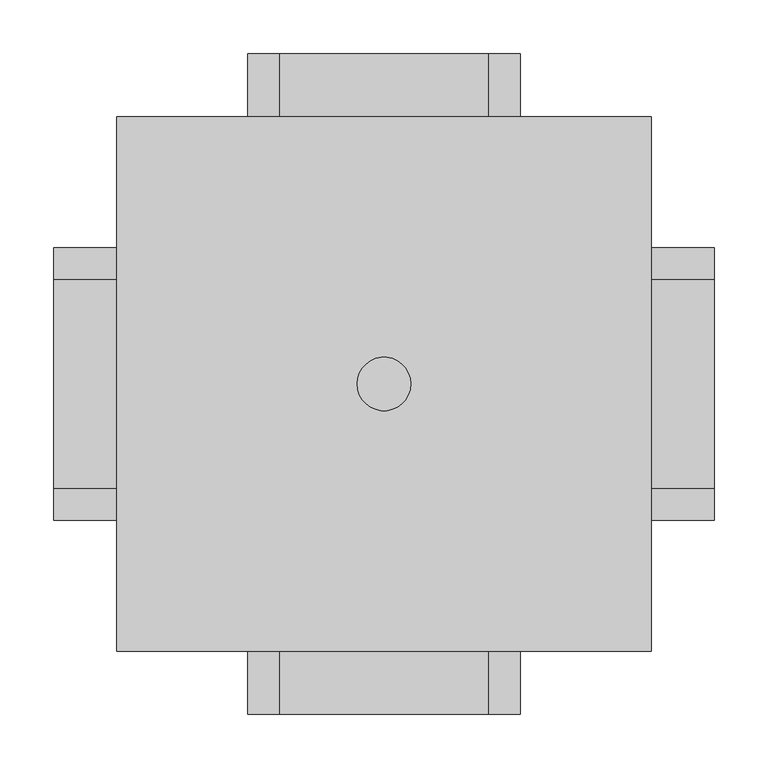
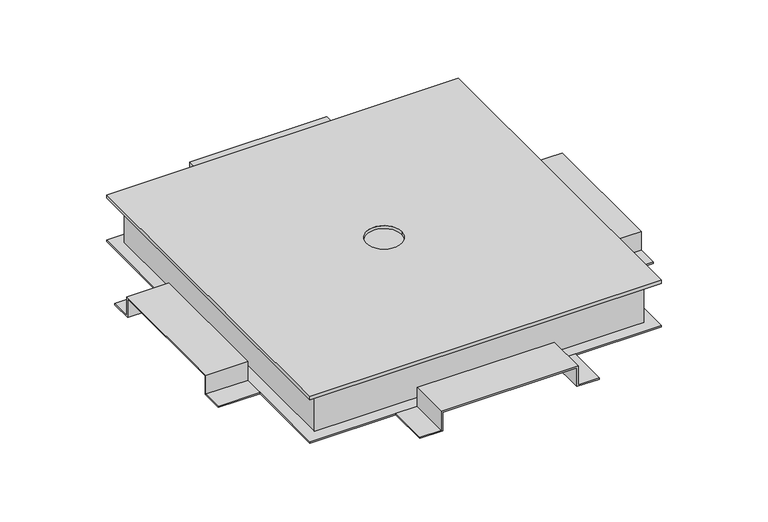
"""IFC4 building model written with IfcOpenShell, lengths in millimetres: cable carrier fitting geometry, Electrical-Installations_Hager_Universal-Junction-Box-With-Retaining-Tabs-Size-2 : Universal junction box with retaining tabs size 2."""

from ifc_helpers import new_model, si_unit, frame, origin, place, context, project, spatial, polyline, circle_curve, outline, extrude, faceted_brep, source, transform, mapped, element, save
from ifc_brep_helpers import plane_surface, revolved_surface, advanced_brep


def cable_carrier_fitting_5f74ec3e(model_context):
    return source(origin(), model_context, "Body", "SolidModel", [
        extrude(outline(polyline([(-14.0, -127.0), (-14.0, -95.0), (14.0, -95.0), (14.0, 95.0), (-14.0, 95.0), (-14.0, 127.0), (-12.0, 127.0), (-12.0, 97.0), (16.0, 97.0), (16.0, -97.0), (-12.0, -97.0), (-12.0, -127.0), (-14.0, -127.0)])), frame((0.0, 249.0, 0.0), z_axis=(0.0, 1.0, 0.0), x_axis=(0.0, 0.0, 1.0)), (0.0, 0.0, 1.0), 59.0),
        extrude(outline(polyline([(-127.0, -14.0), (-127.0, -12.0), (-97.0, -12.0), (-97.0, 16.0), (97.0, 16.0), (97.0, -12.0), (127.0, -12.0), (127.0, -14.0), (95.0, -14.0), (95.0, 14.0), (-95.0, 14.0), (-95.0, -14.0), (-127.0, -14.0)])), frame((-308.0, 0.0, 0.0), z_axis=(1.0, 0.0, 0.0), x_axis=(0.0, 1.0, 0.0)), (0.0, 0.0, 1.0), 59.0),
        extrude(outline(polyline([(-14.0, -127.0), (-14.0, -95.0), (14.0, -95.0), (14.0, 95.0), (-14.0, 95.0), (-14.0, 127.0), (-12.0, 127.0), (-12.0, 97.0), (16.0, 97.0), (16.0, -97.0), (-12.0, -97.0), (-12.0, -127.0), (-14.0, -127.0)])), frame((0.0, -308.0, 0.0), z_axis=(0.0, 1.0, 0.0), x_axis=(0.0, 0.0, 1.0)), (0.0, 0.0, 1.0), 59.0),
        extrude(outline(polyline([(-127.0, -14.0), (-127.0, -12.0), (-97.0, -12.0), (-97.0, 16.0), (97.0, 16.0), (97.0, -12.0), (127.0, -12.0), (127.0, -14.0), (95.0, -14.0), (95.0, 14.0), (-95.0, 14.0), (-95.0, -14.0), (-127.0, -14.0)])), frame((249.0, 0.0, 0.0), z_axis=(1.0, 0.0, 0.0), x_axis=(0.0, 1.0, 0.0)), (0.0, 0.0, 1.0), 59.0),
        advanced_brep(
        [(-249.0, -249.0, 56.0), (249.0, -249.0, 56.0), (249.0, 249.0, 56.0), (-249.0, 249.0, 56.0), (-25.0, 0.0, 56.0), (25.0, 0.0, 56.0), (-249.0, -249.0, 51.0), (-249.0, 249.0, 51.0), (249.0, 249.0, 51.0), (249.0, -249.0, 51.0), (227.0, 227.0, 51.0), (-227.0, 227.0, 51.0), (-227.0, -227.0, 51.0), (227.0, -227.0, 51.0), (-25.0, 0.0, 51.7820613), (25.0, 0.0, 51.7820613), (227.0, 227.0, 51.7820613), (227.0, -227.0, 51.7820613), (-227.0, -227.0, 51.7820613), (-227.0, 227.0, 51.7820613)],
        [
            (0, 1),
            (1, 2),
            (2, 3),
            (3, 0),
            (4, 5, circle_curve(frame((0.0, 0.0, 56.0), z_axis=(0.0, 0.0, -1.0), x_axis=(1.0, 0.0, 0.0)), 25.0)),
            (5, 4, circle_curve(frame((0.0, 0.0, 56.0), z_axis=(0.0, 0.0, -1.0), x_axis=(1.0, 0.0, 0.0)), 25.0)),
            (6, 7),
            (7, 8),
            (8, 9),
            (9, 6),
            (10, 11),
            (11, 12),
            (12, 13),
            (13, 10),
            (0, 6),
            (9, 1),
            (8, 2),
            (7, 3),
            (4, 14),
            (14, 15, circle_curve(frame((0.0, 0.0, 51.7820613), z_axis=(0.0, 0.0, -1.0), x_axis=(1.0, 0.0, 0.0)), 25.0)),
            (15, 5),
            (15, 14, circle_curve(frame((0.0, 0.0, 51.7820613), z_axis=(0.0, 0.0, -1.0), x_axis=(1.0, 0.0, 0.0)), 25.0)),
            (16, 17),
            (17, 18),
            (18, 19),
            (19, 16),
            (19, 11),
            (10, 16),
            (18, 12),
            (17, 13),
        ],
        [
            plane_surface(frame((-249.0, -249.0, 56.0), z_axis=(0.0, 0.0, 1.0), x_axis=(1.0, 0.0, 0.0))),
            plane_surface(frame((-249.0, -249.0, 51.0), z_axis=(0.0, 0.0, -1.0), x_axis=(-1.0, 0.0, 0.0))),
            plane_surface(frame((-249.0, -249.0, 56.0), z_axis=(0.0, -1.0, 0.0), x_axis=(0.0, 0.0, -1.0))),
            plane_surface(frame((249.0, -249.0, 56.0), z_axis=(1.0, 0.0, 0.0), x_axis=(0.0, 0.0, -1.0))),
            plane_surface(frame((249.0, 249.0, 56.0), z_axis=(0.0, 1.0, 0.0), x_axis=(0.0, 0.0, -1.0))),
            plane_surface(frame((-249.0, 249.0, 56.0), z_axis=(-1.0, 0.0, 0.0), x_axis=(0.0, 0.0, -1.0))),
            revolved_surface(polyline([(25.0, 0.0, 51.7820613), (25.0, 0.0, 56.0)]), (0.0, 0.0, 0.0), (0.0, 0.0, -1.0)),
            plane_surface(frame((-227.0, 227.0, 51.7820613), z_axis=(0.0, 0.0, -1.0), x_axis=(-1.0, 0.0, 0.0))),
            plane_surface(frame((227.0, 227.0, 51.7820613), z_axis=(0.0, -1.0, 0.0), x_axis=(0.0, 0.0, -1.0))),
            plane_surface(frame((-227.0, 227.0, 51.7820613), z_axis=(1.0, 0.0, 0.0), x_axis=(0.0, 0.0, -1.0))),
            plane_surface(frame((-227.0, -227.0, 51.7820613), z_axis=(0.0, 1.0, 0.0), x_axis=(0.0, 0.0, -1.0))),
            plane_surface(frame((227.0, -227.0, 51.7820613), z_axis=(-1.0, 0.0, 0.0), x_axis=(0.0, 0.0, -1.0))),
        ],
        [
            (0, [[1, 2, 3, 4], [5, 6]]),
            (1, [[7, 8, 9, 10], [11, 12, 13, 14]]),
            (2, [[-1, 15, -10, 16]]),
            (3, [[-2, -16, -9, 17]]),
            (4, [[-3, -17, -8, 18]]),
            (5, [[-4, -18, -7, -15]]),
            (6, [[-5, 19, 20, 21]]),
            (6, [[-6, -21, 22, -19]]),
            (7, [[23, 24, 25, 26], [-20, -22]]),
            (8, [[-26, 27, -11, 28]]),
            (9, [[-25, 29, -12, -27]]),
            (10, [[-24, 30, -13, -29]]),
            (11, [[-23, -28, -14, -30]]),
        ],
    ),
        extrude(outline(polyline([(249.0, 249.0), (249.0, -249.0), (-249.0, -249.0), (-249.0, 249.0), (249.0, 249.0)])), frame((0.0, 0.0, -14.0), z_axis=(0.0, 0.0, 1.0), x_axis=(1.0, 0.0, 0.0)), (0.0, 0.0, 1.0), 2.0),
        faceted_brep([(-233.0, 233.0, 51.0), (-233.0, -233.0, 51.0), (233.0, -233.0, 51.0), (233.0, 233.0, 51.0), (-227.0, 227.0, 51.0), (227.0, 227.0, 51.0), (227.0, -227.0, 51.0), (-227.0, -227.0, 51.0), (-233.0, 233.0, -14.0), (233.0, 233.0, -14.0), (233.0, -233.0, -14.0), (-233.0, -233.0, -14.0), (227.0, 227.0, -6.1362798), (-227.0, 227.0, -6.1362798), (-227.0, -227.0, -6.1362798), (227.0, -227.0, -6.1362798)], [[[0, 1, 2, 3], [4, 5, 6, 7]], [[8, 9, 10, 11]], [[1, 0, 8, 11]], [[2, 1, 11, 10]], [[3, 2, 10, 9]], [[0, 3, 9, 8]], [[12, 13, 14, 15]], [[13, 12, 5, 4]], [[14, 13, 4, 7]], [[15, 14, 7, 6]], [[12, 15, 6, 5]]]),
    ])


if __name__ == "__main__":
    model = new_model("IFC4")
    model_context = context("Model", 3, world=origin())
    ifc_project = project(units=[si_unit("LENGTHUNIT", "METRE", prefix="MILLI")], contexts=[model_context])
    site = spatial("IfcSite", under=ifc_project)
    building = spatial("IfcBuilding", under=site)
    placement = place(None, origin())
    cable_carrier_fitting_shape = cable_carrier_fitting_5f74ec3e(model_context)
    element("IfcCableCarrierFitting", 1, ObjectType="Electrical-Installations_Hager_Universal-Junction-Box-With-Retaining-Tabs-Size-2 : Universal junction box with retaining tabs size 2", at=placement, inside=building, context=model_context, shape_type="MappedRepresentation", body=[
        mapped(cable_carrier_fitting_shape, transform((0.0, 0.0, 0.0), x_axis=(1.0, 0.0, 0.0), y_axis=(0.0, 1.0, 0.0), z_axis=(0.0, 0.0, 1.0))),
    ])
    save(model, "model.ifc")
